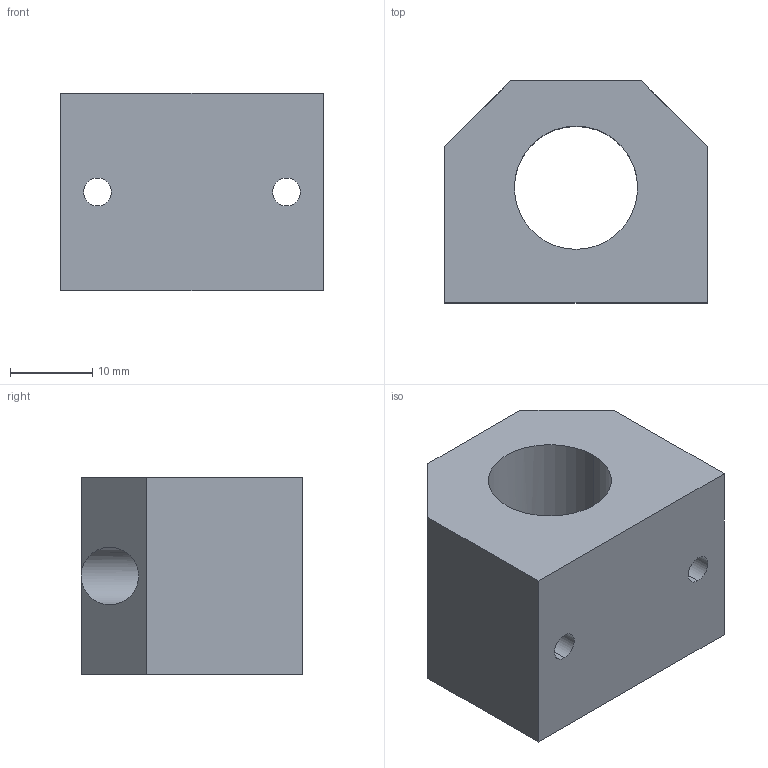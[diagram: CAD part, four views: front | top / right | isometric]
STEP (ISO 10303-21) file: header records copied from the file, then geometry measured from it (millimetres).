
FILE_DESCRIPTION (( 'STEP AP214' ), '1' );
FILE_NAME ('KGC27-8.step', '2020-03-04T13:07:26', ( '' ), ( '' ), 'SwSTEP 2.0', 'SolidWorks 2019', '' );
FILE_SCHEMA (( 'AUTOMOTIVE_DESIGN' ));
Length unit declared in the file: millimetre
Products named in the file (1): KGC27-8
Bounding box: 32 x 27 x 24 mm (x, y, z)
Volume: 13694.8 mm3; surface area: 5708.1 mm2
Topology: 1 solids, 1 shells, 22 faces, 58 edges, 38 vertices
Faces by surface type: cylinder 12, plane 10
Entity records: 862 total; most frequent: CARTESIAN_POINT 203, ORIENTED_EDGE 116, DIRECTION 114, EDGE_CURVE 58, AXIS2_PLACEMENT_3D 41, VERTEX_POINT 38, VECTOR 32, LINE 32
